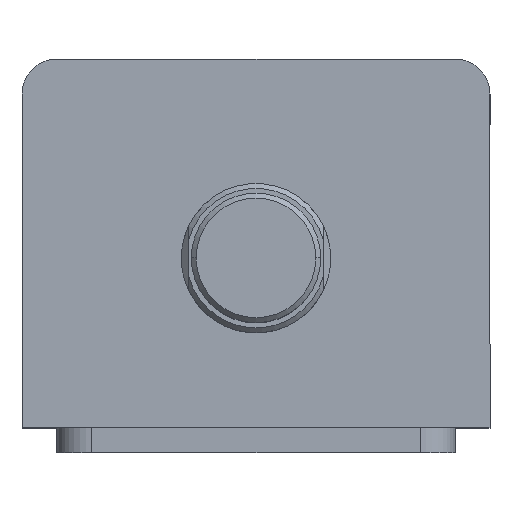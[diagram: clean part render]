
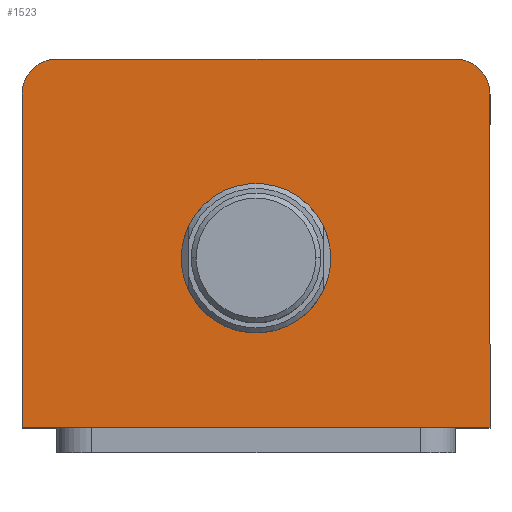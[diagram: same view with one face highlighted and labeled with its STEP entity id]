
A CAD part, top view. The second image highlights one B-rep face of the part: STEP entity #1523.
In plain terms, the highlighted planar face has unit normal (0, 0, 1).
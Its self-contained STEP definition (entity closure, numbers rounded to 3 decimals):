
#37 = LINE ( 'NONE', #2356, #41 ) ;
#41 = VECTOR ( 'NONE', #2353, 1000. ) ;
#47 = CIRCLE ( 'NONE', #974, 7. ) ;
#57 = CIRCLE ( 'NONE', #966, 7. ) ;
#69 = LINE ( 'NONE', #2241, #72 ) ;
#72 = VECTOR ( 'NONE', #2240, 1000. ) ;
#407 = LINE ( 'NONE', #1233, #412 ) ;
#412 = VECTOR ( 'NONE', #1224, 1000. ) ;
#420 = CIRCLE ( 'NONE', #1010, 15. ) ;
#527 = LINE ( 'NONE', #2181, #529 ) ;
#529 = VECTOR ( 'NONE', #2176, 1000. ) ;
#691 = EDGE_LOOP ( 'NONE', ( #1925, #1924 ) ) ;
#698 = EDGE_LOOP ( 'NONE', ( #1923, #1921, #1920, #1917, #1916, #1915 ) ) ;
#889 = EDGE_CURVE ( 'NONE', #1968, #1981, #2876, .T. ) ;
#966 = AXIS2_PLACEMENT_3D ( 'NONE', #2280, #2279, #2278 ) ;
#974 = AXIS2_PLACEMENT_3D ( 'NONE', #2315, #2314, #2313 ) ;
#1010 = AXIS2_PLACEMENT_3D ( 'NONE', #1190, #1189, #1187 ) ;
#1075 = CARTESIAN_POINT ( 'NONE',  ( -40., 37., 65. ) ) ;
#1135 = CARTESIAN_POINT ( 'NONE',  ( 40., 37., 65. ) ) ;
#1146 = CARTESIAN_POINT ( 'NONE',  ( -47., 30., 65. ) ) ;
#1183 = CARTESIAN_POINT ( 'NONE',  ( 47., -37., 65. ) ) ;
#1187 = DIRECTION ( 'NONE',  ( 1., 0., 0. ) ) ;
#1189 = DIRECTION ( 'NONE',  ( 0., 0., 1. ) ) ;
#1190 = CARTESIAN_POINT ( 'NONE',  ( 0., -3., 65. ) ) ;
#1224 = DIRECTION ( 'NONE',  ( 1., 0., 0. ) ) ;
#1233 = CARTESIAN_POINT ( 'NONE',  ( -47., -37., 65. ) ) ;
#1263 = CARTESIAN_POINT ( 'NONE',  ( -15., -3., 65. ) ) ;
#1288 = CARTESIAN_POINT ( 'NONE',  ( 15., -3., 65. ) ) ;
#1369 = CARTESIAN_POINT ( 'NONE',  ( 47., 30., 65. ) ) ;
#1408 = CARTESIAN_POINT ( 'NONE',  ( -47., -37., 65. ) ) ;
#1523 = ADVANCED_FACE ( 'NONE', ( #2966, #2965 ), #1801, .T. ) ;
#1781 = DIRECTION ( 'NONE',  ( 1., 0., 0. ) ) ;
#1799 = CARTESIAN_POINT ( 'NONE',  ( 0., 0., 65. ) ) ;
#1801 = PLANE ( 'NONE',  #2523 ) ;
#1834 = DIRECTION ( 'NONE',  ( 0., 0., 1. ) ) ;
#1915 = ORIENTED_EDGE ( 'NONE', *, *, #3103, .T. ) ;
#1916 = ORIENTED_EDGE ( 'NONE', *, *, #3052, .T. ) ;
#1917 = ORIENTED_EDGE ( 'NONE', *, *, #2680, .T. ) ;
#1920 = ORIENTED_EDGE ( 'NONE', *, *, #3120, .T. ) ;
#1921 = ORIENTED_EDGE ( 'NONE', *, *, #3111, .T. ) ;
#1923 = ORIENTED_EDGE ( 'NONE', *, *, #3096, .T. ) ;
#1924 = ORIENTED_EDGE ( 'NONE', *, *, #2689, .F. ) ;
#1925 = ORIENTED_EDGE ( 'NONE', *, *, #889, .F. ) ;
#1935 = VERTEX_POINT ( 'NONE', #1369 ) ;
#1968 = VERTEX_POINT ( 'NONE', #1288 ) ;
#1981 = VERTEX_POINT ( 'NONE', #1263 ) ;
#2000 = VERTEX_POINT ( 'NONE', #1408 ) ;
#2016 = VERTEX_POINT ( 'NONE', #1183 ) ;
#2026 = VERTEX_POINT ( 'NONE', #1146 ) ;
#2029 = VERTEX_POINT ( 'NONE', #1135 ) ;
#2055 = VERTEX_POINT ( 'NONE', #1075 ) ;
#2176 = DIRECTION ( 'NONE',  ( 0., 1., 0. ) ) ;
#2181 = CARTESIAN_POINT ( 'NONE',  ( 47., 37., 65. ) ) ;
#2240 = DIRECTION ( 'NONE',  ( 0., -1., 0. ) ) ;
#2241 = CARTESIAN_POINT ( 'NONE',  ( -47., 37., 65. ) ) ;
#2278 = DIRECTION ( 'NONE',  ( 1., 0., 0. ) ) ;
#2279 = DIRECTION ( 'NONE',  ( 0., 0., 1. ) ) ;
#2280 = CARTESIAN_POINT ( 'NONE',  ( -40., 30., 65. ) ) ;
#2313 = DIRECTION ( 'NONE',  ( 1., 0., 0. ) ) ;
#2314 = DIRECTION ( 'NONE',  ( 0., 0., 1. ) ) ;
#2315 = CARTESIAN_POINT ( 'NONE',  ( 40., 30., 65. ) ) ;
#2353 = DIRECTION ( 'NONE',  ( -1., 0., 0. ) ) ;
#2356 = CARTESIAN_POINT ( 'NONE',  ( -47., 37., 65. ) ) ;
#2523 = AXIS2_PLACEMENT_3D ( 'NONE', #1799, #1834, #1781 ) ;
#2561 = AXIS2_PLACEMENT_3D ( 'NONE', #2632, #2661, #2659 ) ;
#2632 = CARTESIAN_POINT ( 'NONE',  ( 0., -3., 65. ) ) ;
#2659 = DIRECTION ( 'NONE',  ( 1., 0., 0. ) ) ;
#2661 = DIRECTION ( 'NONE',  ( 0., 0., 1. ) ) ;
#2680 = EDGE_CURVE ( 'NONE', #2000, #2016, #407, .T. ) ;
#2689 = EDGE_CURVE ( 'NONE', #1981, #1968, #420, .T. ) ;
#2876 = CIRCLE ( 'NONE', #2561, 15. ) ;
#2965 = FACE_OUTER_BOUND ( 'NONE', #698, .T. ) ;
#2966 = FACE_BOUND ( 'NONE', #691, .T. ) ;
#3052 = EDGE_CURVE ( 'NONE', #2016, #1935, #527, .T. ) ;
#3096 = EDGE_CURVE ( 'NONE', #2029, #2055, #37, .T. ) ;
#3103 = EDGE_CURVE ( 'NONE', #1935, #2029, #47, .T. ) ;
#3111 = EDGE_CURVE ( 'NONE', #2055, #2026, #57, .T. ) ;
#3120 = EDGE_CURVE ( 'NONE', #2026, #2000, #69, .T. ) ;
